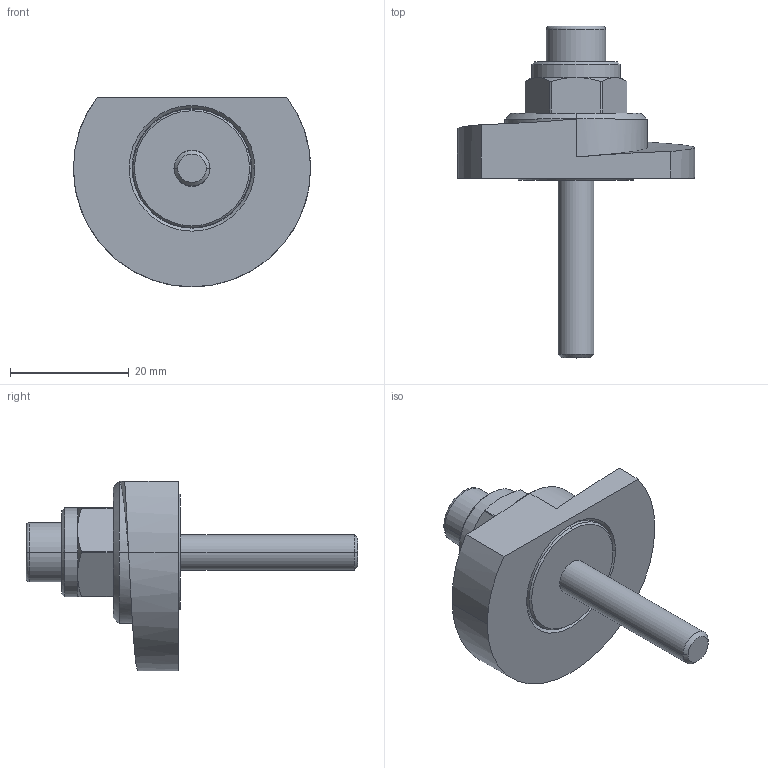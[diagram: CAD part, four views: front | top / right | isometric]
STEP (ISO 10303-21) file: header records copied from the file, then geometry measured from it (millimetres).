
FILE_DESCRIPTION (( 'STEP AP214' ), '1' );
FILE_NAME ('918.1-40-SKS-R-30.step', '2024-05-15T13:01:12', ( '' ), ( '' ), 'SwSTEP 2.0', 'SolidWorks 2022', '' );
FILE_SCHEMA (( 'AUTOMOTIVE_DESIGN' ));
Length unit declared in the file: millimetre
Products named in the file (1): 918.1-40-SKS-R-30
Bounding box: 40 x 56 x 32 mm (x, y, z)
Volume: 11798.3 mm3; surface area: 6774 mm2
Topology: 1 solids, 2 shells, 82 faces, 185 edges, 116 vertices
Faces by surface type: cylinder 30, plane 26, cone 22, torus 2, bspline 2
Entity records: 2641 total; most frequent: CARTESIAN_POINT 753, DIRECTION 407, ORIENTED_EDGE 370, EDGE_CURVE 185, AXIS2_PLACEMENT_3D 163, VERTEX_POINT 116, EDGE_LOOP 93, CIRCLE 82
